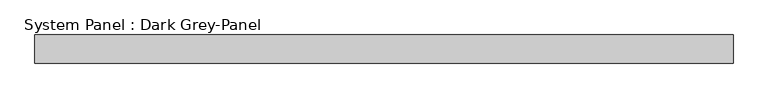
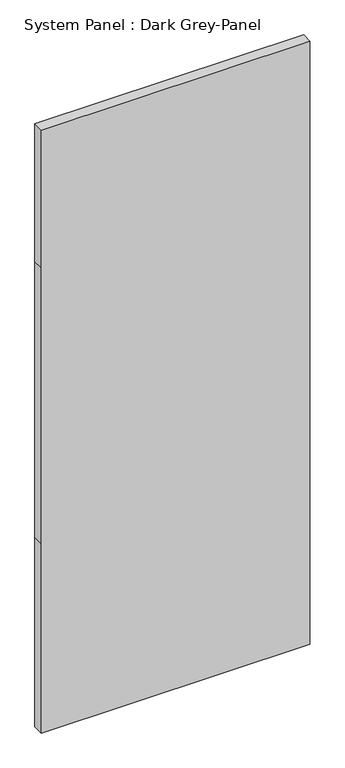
"""IFC4 building model written with IfcOpenShell, lengths in millimetres: plate geometry, System Panel : Dark Grey-Panel."""

from ifc_helpers import new_model, si_unit, frame, origin, place, context, project, spatial, polyline, outline, extrude, source, transform, mapped, element, save


def system_panel_dark_grey_panel_97a7edae(model_context):
    return source(origin(), model_context, "Body", "SweptSolid", [
        extrude(outline(polyline([(0.0, -737.5), (0.0, 737.5), (1100.0, 737.5), (2700.0, 737.5), (3500.0, 737.5), (3500.0, -737.5), (2700.0, -737.5), (1100.0, -737.5), (0.0, -737.5)])), frame((0.0, -10.5, 0.0), z_axis=(0.0, 1.0, 0.0), x_axis=(0.0, 0.0, 1.0)), (0.0, 0.0, 1.0), 60.0),
    ])


if __name__ == "__main__":
    model = new_model("IFC4")
    model_context = context("Model", 3, world=origin())
    ifc_project = project(units=[si_unit("LENGTHUNIT", "METRE", prefix="MILLI")], contexts=[model_context])
    site = spatial("IfcSite", under=ifc_project)
    building = spatial("IfcBuilding", under=site)
    placement = place(None, origin())
    system_panel_dark_grey_panel_shape = system_panel_dark_grey_panel_97a7edae(model_context)
    element("IfcPlate", 1, ObjectType="System Panel : Dark Grey-Panel", at=placement, inside=building, context=model_context, shape_type="MappedRepresentation", body=[
        mapped(system_panel_dark_grey_panel_shape, transform((0.0, 0.0, 0.0), x_axis=(1.0, 0.0, 0.0), y_axis=(0.0, 1.0, 0.0), z_axis=(0.0, 0.0, 1.0))),
    ])
    save(model, "model.ifc")
